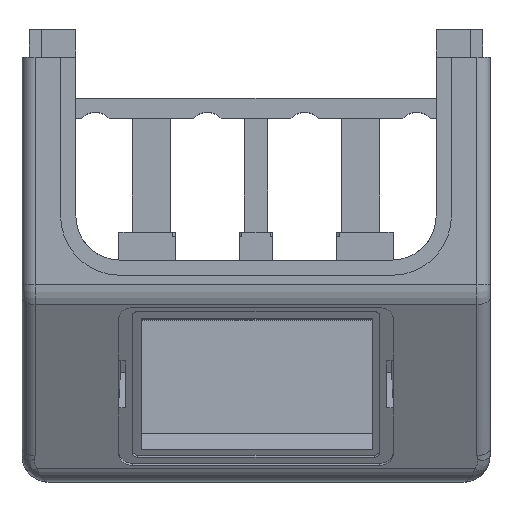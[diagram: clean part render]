
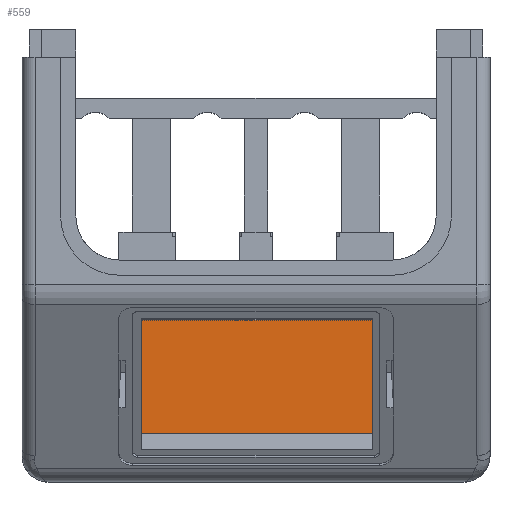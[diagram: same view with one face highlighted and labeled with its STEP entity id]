
A CAD part, top view. The second image highlights one B-rep face of the part: STEP entity #559.
In plain terms, the highlighted planar face has unit normal (0, 0, 1).
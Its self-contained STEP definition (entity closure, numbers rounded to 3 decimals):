
#42 = VERTEX_POINT('',#43);
#43 = CARTESIAN_POINT('',(-107.5,17.,165.195));
#50 = CYLINDRICAL_SURFACE('',#51,12.);
#51 = AXIS2_PLACEMENT_3D('',#52,#53,#54);
#52 = CARTESIAN_POINT('',(-95.5,17.,-6.));
#53 = DIRECTION('',(0.,0.,1.));
#54 = DIRECTION('',(-1.,-0.,0.));
#62 = PLANE('',#63);
#63 = AXIS2_PLACEMENT_3D('',#64,#65,#66);
#64 = CARTESIAN_POINT('',(-107.5,241.763,169.545));
#65 = DIRECTION('',(-1.,-0.,-0.));
#66 = DIRECTION('',(0.,0.,-1.));
#104 = VERTEX_POINT('',#105);
#105 = CARTESIAN_POINT('',(-95.5,5.,165.195));
#119 = PLANE('',#120);
#120 = AXIS2_PLACEMENT_3D('',#121,#122,#123);
#121 = CARTESIAN_POINT('',(-107.5,5.,-6.));
#122 = DIRECTION('',(0.,-1.,0.));
#123 = DIRECTION('',(0.,0.,1.));
#131 = EDGE_CURVE('',#42,#104,#132,.T.);
#132 = SURFACE_CURVE('',#133,(#138,#145),.PCURVE_S1.);
#133 = CIRCLE('',#134,12.);
#134 = AXIS2_PLACEMENT_3D('',#135,#136,#137);
#135 = CARTESIAN_POINT('',(-95.5,17.,165.195));
#136 = DIRECTION('',(0.,0.,1.));
#137 = DIRECTION('',(-1.,-0.,0.));
#138 = PCURVE('',#50,#139);
#139 = DEFINITIONAL_REPRESENTATION('',(#140),#144);
#140 = LINE('',#141,#142);
#141 = CARTESIAN_POINT('',(0.,171.195));
#142 = VECTOR('',#143,1.);
#143 = DIRECTION('',(1.,0.));
#144 = ( GEOMETRIC_REPRESENTATION_CONTEXT(2) 
PARAMETRIC_REPRESENTATION_CONTEXT() REPRESENTATION_CONTEXT('2D SPACE',''
  ) );
#145 = PCURVE('',#146,#151);
#146 = PLANE('',#147);
#147 = AXIS2_PLACEMENT_3D('',#148,#149,#150);
#148 = CARTESIAN_POINT('',(-108.5,4.,165.195));
#149 = DIRECTION('',(0.,0.,1.));
#150 = DIRECTION('',(1.,0.,-0.));
#151 = DEFINITIONAL_REPRESENTATION('',(#152),#156);
#152 = CIRCLE('',#153,12.);
#153 = AXIS2_PLACEMENT_2D('',#154,#155);
#154 = CARTESIAN_POINT('',(13.,13.));
#155 = DIRECTION('',(-1.,0.));
#156 = ( GEOMETRIC_REPRESENTATION_CONTEXT(2) 
PARAMETRIC_REPRESENTATION_CONTEXT() REPRESENTATION_CONTEXT('2D SPACE',''
  ) );
#184 = EDGE_CURVE('',#42,#185,#187,.T.);
#185 = VERTEX_POINT('',#186);
#186 = CARTESIAN_POINT('',(-107.5,79.515,165.195));
#187 = SURFACE_CURVE('',#188,(#192,#198),.PCURVE_S1.);
#188 = LINE('',#189,#190);
#189 = CARTESIAN_POINT('',(-107.5,122.882,165.195));
#190 = VECTOR('',#191,1.);
#191 = DIRECTION('',(0.,1.,0.));
#192 = PCURVE('',#62,#193);
#193 = DEFINITIONAL_REPRESENTATION('',(#194),#197);
#194 = B_SPLINE_CURVE_WITH_KNOTS('',1,(#195,#196),.UNSPECIFIED.,.F.,.F.,
  (2,2),(-105.882,-43.367),.PIECEWISE_BEZIER_KNOTS.);
#195 = CARTESIAN_POINT('',(4.35,224.763));
#196 = CARTESIAN_POINT('',(4.35,162.248));
#197 = ( GEOMETRIC_REPRESENTATION_CONTEXT(2) 
PARAMETRIC_REPRESENTATION_CONTEXT() REPRESENTATION_CONTEXT('2D SPACE',''
  ) );
#198 = PCURVE('',#146,#199);
#199 = DEFINITIONAL_REPRESENTATION('',(#200),#204);
#200 = LINE('',#201,#202);
#201 = CARTESIAN_POINT('',(1.,118.882));
#202 = VECTOR('',#203,1.);
#203 = DIRECTION('',(0.,1.));
#204 = ( GEOMETRIC_REPRESENTATION_CONTEXT(2) 
PARAMETRIC_REPRESENTATION_CONTEXT() REPRESENTATION_CONTEXT('2D SPACE',''
  ) );
#222 = PLANE('',#223);
#223 = AXIS2_PLACEMENT_3D('',#224,#225,#226);
#224 = CARTESIAN_POINT('',(-108.5,79.515,165.195));
#225 = DIRECTION('',(0.,1.,0.));
#226 = DIRECTION('',(0.,-0.,1.));
#559 = ADVANCED_FACE('',(#560),#146,.T.);
#560 = FACE_BOUND('',#561,.T.);
#561 = EDGE_LOOP('',(#562,#563,#564,#586,#615,#642));
#562 = ORIENTED_EDGE('',*,*,#184,.F.);
#563 = ORIENTED_EDGE('',*,*,#131,.T.);
#564 = ORIENTED_EDGE('',*,*,#565,.F.);
#565 = EDGE_CURVE('',#566,#104,#568,.T.);
#566 = VERTEX_POINT('',#567);
#567 = CARTESIAN_POINT('',(95.5,5.,165.195));
#568 = SURFACE_CURVE('',#569,(#573,#580),.PCURVE_S1.);
#569 = LINE('',#570,#571);
#570 = CARTESIAN_POINT('',(-108.,5.,165.195));
#571 = VECTOR('',#572,1.);
#572 = DIRECTION('',(-1.,0.,0.));
#573 = PCURVE('',#146,#574);
#574 = DEFINITIONAL_REPRESENTATION('',(#575),#579);
#575 = LINE('',#576,#577);
#576 = CARTESIAN_POINT('',(0.5,1.));
#577 = VECTOR('',#578,1.);
#578 = DIRECTION('',(-1.,0.));
#579 = ( GEOMETRIC_REPRESENTATION_CONTEXT(2) 
PARAMETRIC_REPRESENTATION_CONTEXT() REPRESENTATION_CONTEXT('2D SPACE',''
  ) );
#580 = PCURVE('',#119,#581);
#581 = DEFINITIONAL_REPRESENTATION('',(#582),#585);
#582 = B_SPLINE_CURVE_WITH_KNOTS('',1,(#583,#584),.UNSPECIFIED.,.F.,.F.,
  (2,2),(-203.5,-12.5),.PIECEWISE_BEZIER_KNOTS.);
#583 = CARTESIAN_POINT('',(171.195,-203.));
#584 = CARTESIAN_POINT('',(171.195,-12.));
#585 = ( GEOMETRIC_REPRESENTATION_CONTEXT(2) 
PARAMETRIC_REPRESENTATION_CONTEXT() REPRESENTATION_CONTEXT('2D SPACE',''
  ) );
#586 = ORIENTED_EDGE('',*,*,#587,.T.);
#587 = EDGE_CURVE('',#566,#588,#590,.T.);
#588 = VERTEX_POINT('',#589);
#589 = CARTESIAN_POINT('',(107.5,17.,165.195));
#590 = SURFACE_CURVE('',#591,(#596,#603),.PCURVE_S1.);
#591 = CIRCLE('',#592,12.);
#592 = AXIS2_PLACEMENT_3D('',#593,#594,#595);
#593 = CARTESIAN_POINT('',(95.5,17.,165.195));
#594 = DIRECTION('',(0.,0.,1.));
#595 = DIRECTION('',(1.,0.,-0.));
#596 = PCURVE('',#146,#597);
#597 = DEFINITIONAL_REPRESENTATION('',(#598),#602);
#598 = CIRCLE('',#599,12.);
#599 = AXIS2_PLACEMENT_2D('',#600,#601);
#600 = CARTESIAN_POINT('',(204.,13.));
#601 = DIRECTION('',(1.,0.));
#602 = ( GEOMETRIC_REPRESENTATION_CONTEXT(2) 
PARAMETRIC_REPRESENTATION_CONTEXT() REPRESENTATION_CONTEXT('2D SPACE',''
  ) );
#603 = PCURVE('',#604,#609);
#604 = CYLINDRICAL_SURFACE('',#605,12.);
#605 = AXIS2_PLACEMENT_3D('',#606,#607,#608);
#606 = CARTESIAN_POINT('',(95.5,17.,-6.));
#607 = DIRECTION('',(0.,0.,1.));
#608 = DIRECTION('',(1.,0.,-0.));
#609 = DEFINITIONAL_REPRESENTATION('',(#610),#614);
#610 = LINE('',#611,#612);
#611 = CARTESIAN_POINT('',(-6.283,171.195));
#612 = VECTOR('',#613,1.);
#613 = DIRECTION('',(1.,-0.));
#614 = ( GEOMETRIC_REPRESENTATION_CONTEXT(2) 
PARAMETRIC_REPRESENTATION_CONTEXT() REPRESENTATION_CONTEXT('2D SPACE',''
  ) );
#615 = ORIENTED_EDGE('',*,*,#616,.T.);
#616 = EDGE_CURVE('',#588,#617,#619,.T.);
#617 = VERTEX_POINT('',#618);
#618 = CARTESIAN_POINT('',(107.5,79.515,165.195));
#619 = SURFACE_CURVE('',#620,(#624,#631),.PCURVE_S1.);
#620 = LINE('',#621,#622);
#621 = CARTESIAN_POINT('',(107.5,122.882,165.195));
#622 = VECTOR('',#623,1.);
#623 = DIRECTION('',(0.,1.,0.));
#624 = PCURVE('',#146,#625);
#625 = DEFINITIONAL_REPRESENTATION('',(#626),#630);
#626 = LINE('',#627,#628);
#627 = CARTESIAN_POINT('',(216.,118.882));
#628 = VECTOR('',#629,1.);
#629 = DIRECTION('',(0.,1.));
#630 = ( GEOMETRIC_REPRESENTATION_CONTEXT(2) 
PARAMETRIC_REPRESENTATION_CONTEXT() REPRESENTATION_CONTEXT('2D SPACE',''
  ) );
#631 = PCURVE('',#632,#637);
#632 = PLANE('',#633);
#633 = AXIS2_PLACEMENT_3D('',#634,#635,#636);
#634 = CARTESIAN_POINT('',(107.5,241.763,169.545));
#635 = DIRECTION('',(-1.,-0.,-0.));
#636 = DIRECTION('',(0.,0.,-1.));
#637 = DEFINITIONAL_REPRESENTATION('',(#638),#641);
#638 = B_SPLINE_CURVE_WITH_KNOTS('',1,(#639,#640),.UNSPECIFIED.,.F.,.F.,
  (2,2),(-105.882,-43.367),.PIECEWISE_BEZIER_KNOTS.);
#639 = CARTESIAN_POINT('',(4.35,224.763));
#640 = CARTESIAN_POINT('',(4.35,162.248));
#641 = ( GEOMETRIC_REPRESENTATION_CONTEXT(2) 
PARAMETRIC_REPRESENTATION_CONTEXT() REPRESENTATION_CONTEXT('2D SPACE',''
  ) );
#642 = ORIENTED_EDGE('',*,*,#643,.T.);
#643 = EDGE_CURVE('',#617,#185,#644,.T.);
#644 = SURFACE_CURVE('',#645,(#649,#656),.PCURVE_S1.);
#645 = LINE('',#646,#647);
#646 = CARTESIAN_POINT('',(107.5,79.515,165.195));
#647 = VECTOR('',#648,1.);
#648 = DIRECTION('',(-1.,0.,0.));
#649 = PCURVE('',#146,#650);
#650 = DEFINITIONAL_REPRESENTATION('',(#651),#655);
#651 = LINE('',#652,#653);
#652 = CARTESIAN_POINT('',(216.,75.515));
#653 = VECTOR('',#654,1.);
#654 = DIRECTION('',(-1.,0.));
#655 = ( GEOMETRIC_REPRESENTATION_CONTEXT(2) 
PARAMETRIC_REPRESENTATION_CONTEXT() REPRESENTATION_CONTEXT('2D SPACE',''
  ) );
#656 = PCURVE('',#222,#657);
#657 = DEFINITIONAL_REPRESENTATION('',(#658),#662);
#658 = LINE('',#659,#660);
#659 = CARTESIAN_POINT('',(0.,216.));
#660 = VECTOR('',#661,1.);
#661 = DIRECTION('',(0.,-1.));
#662 = ( GEOMETRIC_REPRESENTATION_CONTEXT(2) 
PARAMETRIC_REPRESENTATION_CONTEXT() REPRESENTATION_CONTEXT('2D SPACE',''
  ) );
